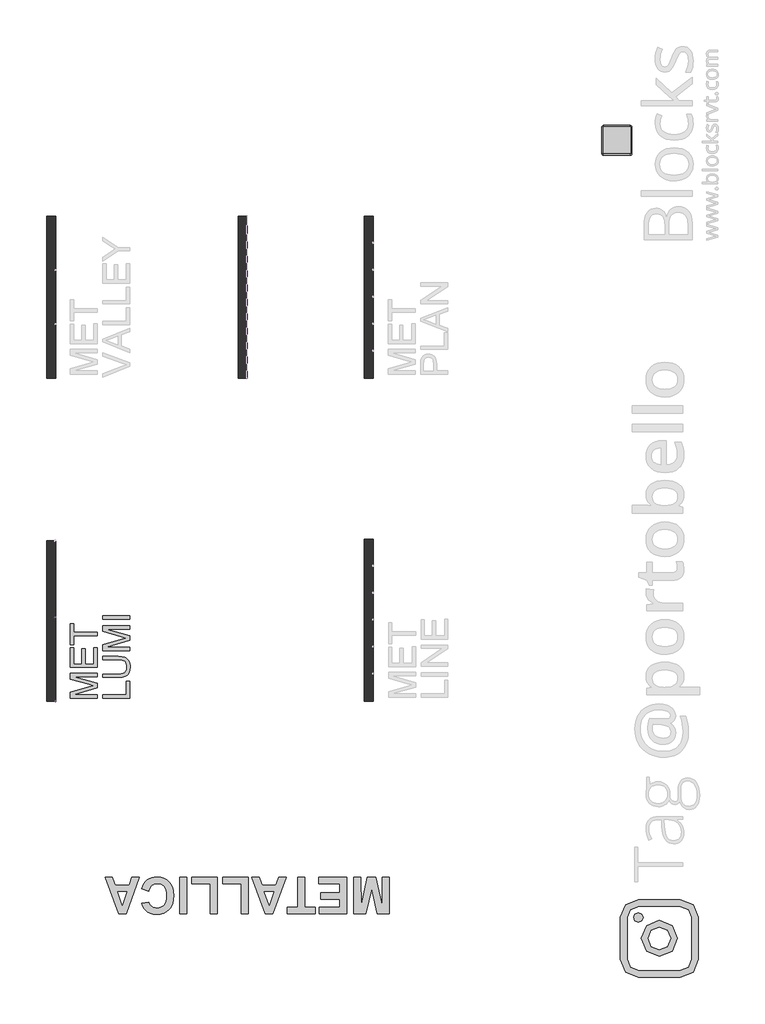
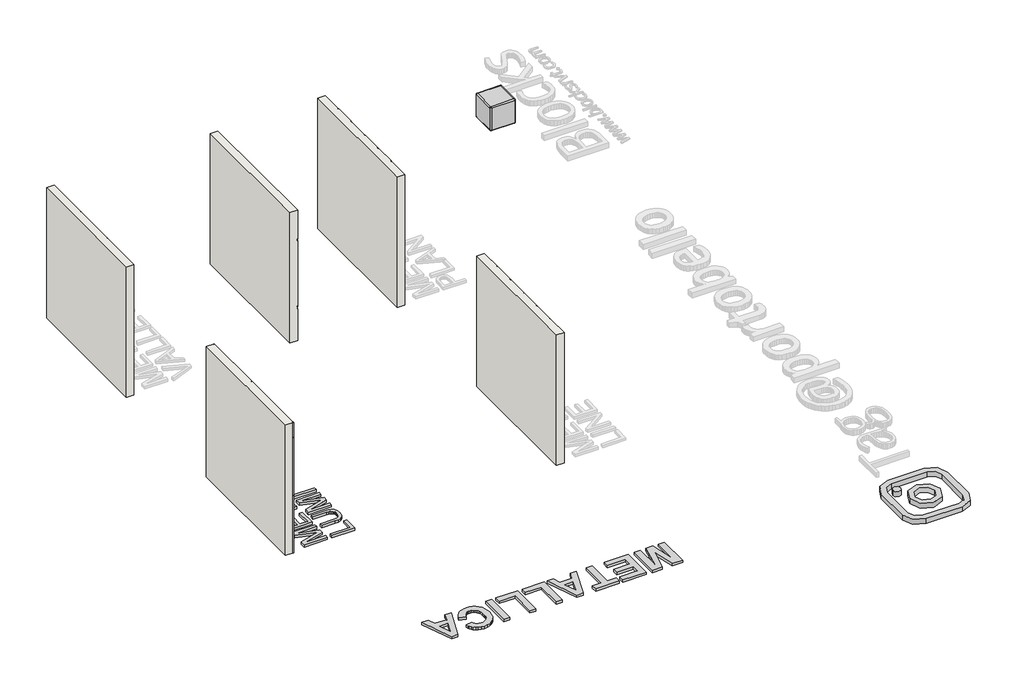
# One storey, part 1 of 4: 9 proxies, 5 walls, 1 furniture element.
"""IFC4 building model written with IfcOpenShell, lengths in millimetres."""

from ifc_helpers import new_model, si_unit, frame, origin, origin_with_axes, place, context, project, spatial, polyline, outline, extrude, faceted_brep, transform, mapped, element, save
from components import generic_models_0d7baa48, generic_models_3e540e93, generic_models_d67f6705, generic_models_3d10f0a6, generic_models_25f4ca0b, branco_22256ad2

model = new_model("IFC4")

# Units and contexts
model_context = context("Model", 3, world=origin())
ifc_project = project(units=[si_unit("LENGTHUNIT", "METRE", prefix="MILLI")], contexts=[model_context])

# Site, building, storey
site = spatial("IfcSite", under=ifc_project)
building = spatial("IfcBuilding", under=site)
storey = spatial("IfcBuildingStorey", under=building, Name="PORTOBELLO - SHOWROOM", Elevation=0.0)

# Proxies
placement = place(None, origin())
generic_models_shape = generic_models_0d7baa48(model_context)
element("IfcBuildingElementProxy", 1, Name="PORTOBELLO - METALLICA MET LUMI : LUMI CORNER 1,3X120", ObjectType="PORTOBELLO - METALLICA MET LUMI : LUMI CORNER 1,3X120", at=placement, inside=storey, context=model_context, shape_type="MappedRepresentation", body=[
    mapped(generic_models_shape, transform((52626.6154392, 18431.4365605, 600.0), x_axis=(0.0, 1.0, 0.0), y_axis=(0.0, 0.0, 1.0), z_axis=(1.0, 0.0, 0.0))),
])
element("IfcBuildingElementProxy", 2, Name="PORTOBELLO - METALLICA MET LUMI : LUMI CORNER 1,3X120", ObjectType="PORTOBELLO - METALLICA MET LUMI : LUMI CORNER 1,3X120", at=placement, inside=storey, context=model_context, shape_type="MappedRepresentation", body=[
    mapped(generic_models_shape, transform((52626.6154392, 18431.4365605, 1800.0), x_axis=(0.0, 1.0, 0.0), y_axis=(0.0, 0.0, 1.0), z_axis=(1.0, 0.0, 0.0))),
])
generic_models_2_shape = generic_models_3e540e93(model_context)
element("IfcBuildingElementProxy", 3, Name="PORTOBELLO - METALLICA MET LUMI : LUMI CORNER 1,3X120", ObjectType="PORTOBELLO - METALLICA MET LUMI : LUMI CORNER 1,3X120", at=placement, inside=storey, context=model_context, shape_type="MappedRepresentation", body=[
    mapped(generic_models_2_shape, transform((52626.6154392, 18431.4365605, 3000.0), x_axis=(0.0, 1.0, 0.0), y_axis=(0.0, 0.0, 1.0), z_axis=(1.0, 0.0, 0.0))),
])
generic_models_3_shape = generic_models_d67f6705(model_context)
element("IfcBuildingElementProxy", 4, Name="Blks_Instagram1 : Único 2", ObjectType="Blks_Instagram1 : Único 2", at=placement, inside=storey, context=model_context, shape_type="MappedRepresentation", body=[
    mapped(generic_models_3_shape, transform((62696.922627, 14478.0190046, 0.0), x_axis=(-1.0, 0.0, 0.0), y_axis=(0.0, -1.0, 0.0), z_axis=(0.0, 0.0, 1.0))),
])
generic_models_4_shape = generic_models_3d10f0a6(model_context)
element("IfcBuildingElementProxy", 5, Name="PORTOBELLO - METALLICA MET LUMI 1,6X120 : LUMI 1,6X120", ObjectType="PORTOBELLO - METALLICA MET LUMI 1,6X120 : LUMI 1,6X120", at=placement, inside=storey, context=model_context, shape_type="MappedRepresentation", body=[
    mapped(generic_models_4_shape, transform((52625.3154392, 19832.9733076, 581.0303366), x_axis=(0.0, 1.0, 0.0), y_axis=(0.0, 0.0, 1.0), z_axis=(1.0, 0.0, 0.0))),
])
element("IfcBuildingElementProxy", 6, Name="PORTOBELLO - METALLICA MET LUMI 1,6X120 : LUMI 1,6X120", ObjectType="PORTOBELLO - METALLICA MET LUMI 1,6X120 : LUMI 1,6X120", at=placement, inside=storey, context=model_context, shape_type="MappedRepresentation", body=[
    mapped(generic_models_4_shape, transform((52625.3154392, 19832.9733076, 1781.0303366), x_axis=(0.0, 1.0, 0.0), y_axis=(0.0, 0.0, 1.0), z_axis=(1.0, 0.0, 0.0))),
])
generic_models_5_shape = generic_models_25f4ca0b(model_context)
element("IfcBuildingElementProxy", 7, Name="PORTOBELLO - METALLICA MET LUMI 1,6X120 : LUMI 1,6X120", ObjectType="PORTOBELLO - METALLICA MET LUMI 1,6X120 : LUMI 1,6X120", at=placement, inside=storey, context=model_context, shape_type="MappedRepresentation", body=[
    mapped(generic_models_5_shape, transform((52625.3154392, 19832.9733076, 2981.0303366), x_axis=(0.0, 1.0, 0.0), y_axis=(0.0, 0.0, 1.0), z_axis=(1.0, 0.0, 0.0))),
])
element("IfcBuildingElementProxy", 8, Name="450mm Arial", ObjectType="450mm Arial", at=placement, inside=storey, context=model_context, shape_type="SweptSolid", body=[
    extrude(outline(polyline([(53322.423094, 18486.6436163), (52872.7669512, 18486.6436163), (52872.7669512, 18583.3592076), (53189.6998819, 18675.3542876), (53255.8968189, 18693.9069946), (53184.2109153, 18713.9966123), (52872.7669512, 18804.4547817), (52872.7669512, 18901.170373), (53322.423094, 18901.170373), (53322.423094, 18844.9633551), (52928.973969, 18844.9633551), (53322.423094, 18732.0004228), (53322.423094, 18655.8135665), (52928.973969, 18542.8506342), (53322.423094, 18542.8506342), (53322.423094, 18486.6436163)])), origin_with_axes(), (0.0, 0.0, 1.0), 50.0),
    extrude(outline(polyline([(53322.423094, 18999.5326542), (52872.7669512, 18999.5326542), (52872.7669512, 19322.7230069), (52928.973969, 19322.7230069), (52928.973969, 19055.7396721), (53062.4656364, 19055.7396721), (53062.4656364, 19308.6712524), (53118.6726543, 19308.6712524), (53118.6726543, 19055.7396721), (53266.2160761, 19055.7396721), (53266.2160761, 19329.7488841), (53322.423094, 19329.7488841), (53322.423094, 18999.5326542)])), origin_with_axes(), (0.0, 0.0, 1.0), 50.0),
    extrude(outline(polyline([(53322.423094, 19526.4734466), (52928.973969, 19526.4734466), (52928.973969, 19378.9300247), (52872.7669512, 19378.9300247), (52872.7669512, 19730.2238863), (52928.973969, 19730.2238863), (52928.973969, 19582.6804644), (53322.423094, 19582.6804644), (53322.423094, 19526.4734466)])), origin_with_axes(), (0.0, 0.0, 1.0), 50.0),
    extrude(outline(polyline([(53862.8551772, 18486.6436163), (53413.1990343, 18486.6436163), (53413.1990343, 18542.8506342), (53806.6481593, 18542.8506342), (53806.6481593, 18767.6787056), (53862.8551772, 18767.6787056), (53862.8551772, 18486.6436163)])), origin_with_axes(), (0.0, 0.0, 1.0), 50.0),
    extrude(outline(polyline([(53413.1990343, 19125.9984444), (53413.1990343, 19182.2054622), (53672.6075952, 19182.2054622), (53733.3567329, 19178.3906305), (53780.1364507, 19166.9461351), (53799.1076915, 19157.7864221), (53816.226406, 19145.5666103), (53831.4925943, 19130.2866995), (53844.9062564, 19111.9466899), (53855.8327305, 19090.5259978), (53863.6373549, 19066.0040396), (53868.3201295, 19038.3808152), (53869.8810544, 19007.6563248), (53864.4469775, 18950.5847947), (53857.6543813, 18926.3407154), (53848.1447467, 18904.9577599), (53836.0587284, 18886.4324977), (53821.5369812, 18870.7614981), (53804.579505, 18857.9447611), (53785.1862999, 18847.9822867), (53736.4305542, 18835.1792722), (53672.6075952, 18830.9116007), (53413.1990343, 18830.9116007), (53413.1990343, 18887.1186185), (53670.6315673, 18887.1186185), (53721.1437823, 18889.8905466), (53756.3143357, 18898.206331), (53780.6716249, 18913.2735443), (53798.7440474, 18936.2997591), (53809.9415393, 18966.3244064), (53813.6740365, 19002.3869168), (53811.8283715, 19033.365272), (53806.2913765, 19059.5545038), (53797.0630514, 19080.9546123), (53784.1433963, 19097.5655975), (53765.9749169, 19110.004968), (53741.0001189, 19118.8902326), (53709.2190024, 19124.2213914), (53670.6315673, 19125.9984444), (53413.1990343, 19125.9984444)])), origin_with_axes(), (0.0, 0.0, 1.0), 50.0),
    extrude(outline(polyline([(53862.8551772, 19280.5677435), (53413.1990343, 19280.5677435), (53413.1990343, 19377.2833347), (53730.1319651, 19469.2784147), (53796.3289021, 19487.8311218), (53724.6429985, 19507.9207395), (53413.1990343, 19598.3789089), (53413.1990343, 19695.0945001), (53862.8551772, 19695.0945001), (53862.8551772, 19638.8874823), (53469.4060522, 19638.8874823), (53862.8551772, 19525.9245499), (53862.8551772, 19449.7376937), (53469.4060522, 19336.7747613), (53862.8551772, 19336.7747613), (53862.8551772, 19280.5677435)])), origin_with_axes(), (0.0, 0.0, 1.0), 50.0),
    extrude(outline(polyline([(53862.8551772, 19800.4826586), (53413.1990343, 19800.4826586), (53413.1990343, 19856.6896765), (53862.8551772, 19856.6896765), (53862.8551772, 19800.4826586)])), origin_with_axes(), (0.0, 0.0, 1.0), 50.0),
])
element("IfcBuildingElementProxy", 9, Name="600mm Arial", ObjectType="600mm Arial", at=placement, inside=storey, context=model_context, shape_type="SweptSolid", body=[
    extrude(outline(polyline([(58192.7189025, 15501.3384056), (58192.7189025, 14889.1827656), (57992.9181033, 14889.1827656), (57896.3578387, 15306.6996331), (57799.797574, 14889.1827656), (57599.9967749, 14889.1827656), (57599.9967749, 15501.3384056), (57716.5978491, 15501.3384056), (57721.4562272, 15019.4480283), (57828.0368967, 15501.3384056), (57964.5269563, 15501.3384056), (58071.2594501, 15019.4480283), (58076.1178282, 15501.3384056), (58192.7189025, 15501.3384056)])), origin_with_axes(), (0.0, 0.0, 1.0), 50.0),
    extrude(outline(polyline([(57483.3957006, 15501.3384056), (57483.3957006, 14889.1827656), (57026.7081597, 14889.1827656), (57026.7081597, 14996.0670837), (57366.7946263, 14996.0670837), (57366.7946263, 15132.1016703), (57046.141672, 15132.1016703), (57046.141672, 15238.9859884), (57366.7946263, 15238.9859884), (57366.7946263, 15394.4540875), (57016.9914035, 15394.4540875), (57016.9914035, 15501.3384056), (57483.3957006, 15501.3384056)])), origin_with_axes(), (0.0, 0.0, 1.0), 50.0),
    extrude(outline(polyline([(56783.7892549, 15501.3384056), (56783.7892549, 14996.0670837), (56958.6908663, 14996.0670837), (56958.6908663, 14889.1827656), (56492.2865692, 14889.1827656), (56492.2865692, 14996.0670837), (56667.1881806, 14996.0670837), (56667.1881806, 15501.3384056), (56783.7892549, 15501.3384056)])), origin_with_axes(), (0.0, 0.0, 1.0), 50.0),
    extrude(outline(polyline([(55899.5644416, 15501.3384056), (56022.0866642, 15501.3384056), (56070.0631479, 15365.3038189), (56301.2915803, 15365.3038189), (56348.6607668, 15501.3384056), (56472.8530568, 15501.3384056), (56249.3676644, 14889.1827656), (56125.1753744, 14889.1827656), (55899.5644416, 15501.3384056)]), holes=[polyline([(56107.4119295, 15258.4195008), (56186.2087492, 15034.9341084), (56263.9427987, 15258.4195008), (56107.4119295, 15258.4195008)])]), origin_with_axes(), (0.0, 0.0, 1.0), 50.0),
    extrude(outline(polyline([(55841.2639045, 15501.3384056), (55841.2639045, 14889.1827656), (55724.6628302, 14889.1827656), (55724.6628302, 15394.4540875), (55413.7266321, 15394.4540875), (55413.7266321, 15501.3384056), (55841.2639045, 15501.3384056)])), origin_with_axes(), (0.0, 0.0, 1.0), 50.0),
    extrude(outline(polyline([(55326.2758264, 15501.3384056), (55326.2758264, 14889.1827656), (55209.6747521, 14889.1827656), (55209.6747521, 15394.4540875), (54898.738554, 15394.4540875), (54898.738554, 15501.3384056), (55326.2758264, 15501.3384056)])), origin_with_axes(), (0.0, 0.0, 1.0), 50.0),
    extrude(outline(polyline([(54811.2877483, 15501.3384056), (54811.2877483, 14889.1827656), (54694.686674, 14889.1827656), (54694.686674, 15501.3384056), (54811.2877483, 15501.3384056)])), origin_with_axes(), (0.0, 0.0, 1.0), 50.0),
    extrude(outline(polyline([(54179.698596, 15268.136257), (54063.0975217, 15307.0032818), (54079.2003881, 15353.1056841), (54099.8769621, 15392.8789102), (54125.1272436, 15426.3229602), (54154.9512325, 15453.437834), (54189.2255718, 15474.3943341), (54227.826904, 15489.3632627), (54270.7552292, 15498.3446199), (54318.0105474, 15501.3384056), (54376.3964857, 15496.2238239), (54429.3357267, 15480.8800791), (54476.8282704, 15455.3071709), (54518.8741167, 15419.5050995), (54553.2813022, 15374.8307947), (54577.8578633, 15322.6411863), (54592.6037999, 15262.9362742), (54597.5191121, 15195.7160585), (54592.5610993, 15124.8330812), (54577.6870609, 15062.3383974), (54552.8969969, 15008.232007), (54536.7834553, 14984.3244218), (54518.1909073, 14962.51391), (54475.4001729, 14926.1804535), (54426.3561745, 14900.2279845), (54371.0589121, 14884.6565032), (54309.5083857, 14879.4660094), (54255.6866659, 14883.7455573), (54207.1787971, 14896.584201), (54163.9847793, 14917.9819404), (54126.1046126, 14947.9387757), (54106.3959186, 14970.3423512), (54089.3251722, 14997.16781), (54074.8923732, 15028.4151519), (54063.0975217, 15064.084377), (54179.698596, 15083.5178894), (54187.0478417, 15062.1628505), (54197.5569311, 15043.1895556), (54211.225864, 15026.5980046), (54228.0546404, 15012.3881976), (54247.4549413, 15000.9966294), (54268.8384472, 14992.859795), (54292.2051582, 14987.9776944), (54317.5550744, 14986.3503275), (54352.2042299, 14989.3061571), (54383.4278493, 14998.1736461), (54411.2259325, 15012.9527943), (54435.5984797, 15033.6436018), (54455.4257864, 15060.948256), (54469.5881483, 15095.5689444), (54478.0855655, 15137.5056671), (54480.9180379, 15186.7584239), (54478.1709666, 15238.8910982), (54469.929753, 15282.9391278), (54456.194397, 15318.9025125), (54436.9648985, 15346.7812524), (54413.3324949, 15367.6381178), (54386.3884234, 15382.5358787), (54356.1326841, 15391.4745353), (54322.5652768, 15394.4540875), (54297.5759434, 15392.551539), (54274.3800347, 15386.8438937), (54252.9775507, 15377.3311514), (54233.3684915, 15364.0133122), (54215.9798629, 15346.6057056), (54201.2386707, 15324.8236608), (54189.1449151, 15298.6671779), (54179.698596, 15268.136257)])), origin_with_axes(), (0.0, 0.0, 1.0), 50.0),
    extrude(outline(polyline([(53450.9418817, 15501.3384056), (53573.4641043, 15501.3384056), (53621.440588, 15365.3038189), (53852.6690204, 15365.3038189), (53900.0382069, 15501.3384056), (54024.2304969, 15501.3384056), (53800.7451046, 14889.1827656), (53676.5528145, 14889.1827656), (53450.9418817, 15501.3384056)]), holes=[polyline([(53658.7893696, 15258.4195008), (53737.5861893, 15034.9341084), (53815.3202388, 15258.4195008), (53658.7893696, 15258.4195008)])]), origin_with_axes(), (0.0, 0.0, 1.0), 50.0),
])

# Furniture
branco_shape = branco_22256ad2(model_context)
element("IfcFurniture", 10, ObjectType="Blks_Mob_Blocks Revit_Cubo : Branco", at=placement, inside=storey, context=model_context, shape_type="MappedRepresentation", body=[
    mapped(branco_shape, transform((61989.1421837, 27788.6066102, 0.0), x_axis=(1.0, 0.0, 0.0), y_axis=(0.0, 1.0, 0.0), z_axis=(0.0, 0.0, 1.0))),
])

# Walls
element("IfcWall", 11, ObjectType="PORTOBELLO - METALLICA - MET", at=placement, inside=storey, context=model_context, shape_type="SweptSolid", body=[
    extrude(outline(polyline([(57775.3154392, 18437.9733076), (57775.3154392, 21137.9733076), (57925.3154392, 21137.9733076), (57925.3154392, 20689.4733076), (57919.5139286, 20689.4733076), (57919.5139286, 20712.9733076), (57918.0139286, 20712.9733076), (57918.0139286, 20687.9733076), (57925.3154392, 20687.9733076), (57925.3154392, 20239.4733076), (57919.5139286, 20239.4733076), (57919.5139286, 20262.9733076), (57918.0139286, 20262.9733076), (57918.0139286, 20237.9733076), (57925.3154392, 20237.9733076), (57925.3154392, 19789.4733076), (57919.5139286, 19789.4733076), (57919.5139286, 19812.9733076), (57918.0139286, 19812.9733076), (57918.0139286, 19787.9733076), (57925.3154392, 19787.9733076), (57925.3154392, 19339.4733076), (57919.5139286, 19339.4733076), (57919.5139286, 19362.9733076), (57918.0139286, 19362.9733076), (57918.0139286, 19337.9733076), (57925.3154392, 19337.9733076), (57925.3154392, 18889.4733076), (57919.5139286, 18889.4733076), (57919.5139286, 18912.9733076), (57918.0139286, 18912.9733076), (57918.0139286, 18887.9733076), (57925.3154392, 18887.9733076), (57925.3154392, 18437.9733076), (57775.3154392, 18437.9733076)])), origin_with_axes(), (0.0, 0.0, 1.0), 2700.0),
])
element("IfcWall", 12, ObjectType="PORTOBELLO - METALLICA - MET", at=placement, inside=storey, context=model_context, shape_type="SweptSolid", body=[
    extrude(outline(polyline([(52475.3154392, 18437.9733076), (52475.3154392, 21112.9733076), (52625.3154392, 21112.9733076), (52625.3154392, 19840.9733076), (52614.3534074, 19840.9733076), (52614.3534074, 19839.7644003), (52615.2448383, 19839.7644003), (52615.2448383, 19826.1822148), (52614.3534074, 19826.1822148), (52614.3534074, 19824.9733076), (52625.3154392, 19824.9733076), (52625.3154392, 18437.9733076), (52475.3154392, 18437.9733076)])), origin_with_axes(), (0.0, 0.0, 1.0), 2700.0),
    extrude(outline(polyline([(52625.3154392, 19839.7644003), (52625.3154392, 19826.1822148), (52616.0737736, 19826.1822148), (52616.0737736, 19839.7644003), (52625.3154392, 19839.7644003)])), origin_with_axes(), (0.0, 0.0, 1.0), 2700.0),
])
element("IfcWall", 13, ObjectType="PORTOBELLO - METALLICA - MET", at=placement, inside=storey, context=model_context, shape_type="SweptSolid", body=[
    extrude(outline(polyline([(57775.3154392, 23824.9733076), (57775.3154392, 26524.9733076), (57925.3154392, 26524.9733076), (57925.3154392, 26079.9733076), (57917.3154392, 26079.9733076), (57917.3154392, 26098.8839187), (57916.3154392, 26098.8839187), (57916.3154392, 26078.9733076), (57925.3154392, 26078.9733076), (57925.3154392, 26070.9733076), (57918.7943809, 26070.9733076), (57917.5233757, 26072.2443128), (57916.3154392, 26072.2443128), (57916.3154392, 26069.9733076), (57925.3154392, 26069.9733076), (57925.3154392, 25629.9733076), (57917.3154392, 25629.9733076), (57917.3154392, 25648.8839187), (57916.3154392, 25648.8839187), (57916.3154392, 25628.9733076), (57925.3154392, 25628.9733076), (57925.3154392, 25620.9733076), (57918.7943809, 25620.9733076), (57917.5233757, 25622.2443128), (57916.3154392, 25622.2443128), (57916.3154392, 25619.9733076), (57925.3154392, 25619.9733076), (57925.3154392, 25179.9733076), (57917.3154392, 25179.9733076), (57917.3154392, 25198.8839187), (57916.3154392, 25198.8839187), (57916.3154392, 25178.9733076), (57925.3154392, 25178.9733076), (57925.3154392, 25170.9733076), (57918.7943809, 25170.9733076), (57917.5233757, 25172.2443128), (57916.3154392, 25172.2443128), (57916.3154392, 25169.9733076), (57925.3154392, 25169.9733076), (57925.3154392, 24729.9733076), (57917.3154392, 24729.9733076), (57917.3154392, 24748.8839187), (57916.3154392, 24748.8839187), (57916.3154392, 24728.9733076), (57925.3154392, 24728.9733076), (57925.3154392, 24720.9733076), (57918.7943809, 24720.9733076), (57917.5233757, 24722.2443128), (57916.3154392, 24722.2443128), (57916.3154392, 24719.9733076), (57925.3154392, 24719.9733076), (57925.3154392, 24279.9733076), (57917.3154392, 24279.9733076), (57917.3154392, 24298.8839187), (57916.3154392, 24298.8839187), (57916.3154392, 24278.9733076), (57925.3154392, 24278.9733076), (57925.3154392, 24270.9733076), (57918.7943809, 24270.9733076), (57917.5233757, 24272.2443128), (57916.3154392, 24272.2443128), (57916.3154392, 24269.9733076), (57925.3154392, 24269.9733076), (57925.3154392, 23824.9733076), (57775.3154392, 23824.9733076)])), origin_with_axes(), (0.0, 0.0, 1.0), 2700.0),
])
element("IfcWall", 14, ObjectType="PORTOBELLO - METALLICA - MET", at=placement, inside=storey, context=model_context, shape_type="Brep", body=[
    faceted_brep([(52625.3154392, 26524.9733076, 0.0), (52625.3154392, 26524.9733076, 2700.0), (52625.3154392, 23824.9733076, 2700.0), (52625.3154392, 23824.9733076, 0.0), (52625.3154392, 24718.9733076, 0.0), (52625.3154392, 24718.9733076, 2400.0), (52625.3154392, 24719.9733076, 2400.0), (52625.3154392, 24719.9733076, 0.0), (52625.3154392, 24729.9733076, 0.0), (52625.3154392, 24729.9733076, 2400.0), (52625.3154392, 24730.9733076, 2400.0), (52625.3154392, 24730.9733076, 0.0), (52625.3154392, 25618.9733076, 0.0), (52625.3154392, 25618.9733076, 2400.0), (52625.3154392, 25619.9733076, 2400.0), (52625.3154392, 25619.9733076, 0.0), (52625.3154392, 25629.9733076, 0.0), (52625.3154392, 25629.9733076, 2400.0), (52625.3154392, 25630.9733076, 2400.0), (52625.3154392, 25630.9733076, 0.0), (52475.3154392, 26524.9733076, 0.0), (52475.3154392, 23824.9733076, 0.0), (52475.3154392, 23824.9733076, 2700.0), (52475.3154392, 26524.9733076, 2700.0), (52616.3154392, 25630.9733076, 0.0), (52616.3154392, 25629.9733076, 0.0), (52616.3154392, 25619.9733076, 0.0), (52616.3154392, 25618.9733076, 0.0), (52616.3154392, 24730.9733076, 0.0), (52616.3154392, 24729.9733076, 0.0), (52616.3154392, 24719.9733076, 0.0), (52616.3154392, 24718.9733076, 0.0), (52616.3154392, 25618.9733076, 2400.0), (52616.3154392, 25619.9733076, 2400.0), (52616.3154392, 25629.9733076, 2400.0), (52616.3154392, 25630.9733076, 2400.0), (52616.3154392, 24718.9733076, 2400.0), (52616.3154392, 24719.9733076, 2400.0), (52616.3154392, 24729.9733076, 2400.0), (52616.3154392, 24730.9733076, 2400.0)], [[[0, 1, 2, 3, 4, 5, 6, 7, 8, 9, 10, 11, 12, 13, 14, 15, 16, 17, 18, 19]], [[20, 21, 22, 23]], [[21, 20, 0, 19, 24, 25, 16, 15, 26, 27, 12, 11, 28, 29, 8, 7, 30, 31, 4, 3]], [[1, 0, 20, 23]], [[2, 1, 23, 22]], [[3, 2, 22, 21]], [[32, 33, 14, 13]], [[17, 34, 35, 18]], [[18, 35, 24, 19]], [[35, 34, 25, 24]], [[34, 17, 16, 25]], [[14, 33, 26, 15]], [[33, 32, 27, 26]], [[32, 13, 12, 27]], [[36, 37, 6, 5]], [[9, 38, 39, 10]], [[28, 11, 10, 39]], [[28, 39, 38, 29]], [[29, 38, 9, 8]], [[6, 37, 30, 7]], [[30, 37, 36, 31]], [[31, 36, 5, 4]]]),
])
element("IfcWall", 15, ObjectType="PORTOBELLO - METALLICA - MET", at=placement, inside=storey, context=model_context, shape_type="SweptSolid", body=[
    extrude(outline(polyline([(2700.0, 55675.3154392), (0.0, 55675.3154392), (0.0, 55825.3154392), (667.7289948, 55825.3154392), (667.7289948, 55816.3154392), (670.0, 55816.3154392), (670.0, 55817.5233757), (668.7289948, 55818.7943809), (668.7289948, 55825.3154392), (696.7289948, 55825.3154392), (696.7289948, 55816.3154392), (716.6396059, 55816.3154392), (716.6396059, 55817.3154392), (697.7289948, 55817.3154392), (697.7289948, 55825.3154392), (2077.7289948, 55825.3154392), (2077.7289948, 55816.3154392), (2080.0, 55816.3154392), (2080.0, 55817.5233757), (2078.7289948, 55818.7943809), (2078.7289948, 55825.3154392), (2086.7289948, 55825.3154392), (2086.7289948, 55816.3154392), (2106.6396059, 55816.3154392), (2106.6396059, 55817.3154392), (2087.7289948, 55817.3154392), (2087.7289948, 55825.3154392), (2700.0, 55825.3154392), (2700.0, 55675.3154392)])), frame((0.0, 23824.9733076, 0.0), z_axis=(0.0, 1.0, 0.0), x_axis=(0.0, 0.0, 1.0)), (0.0, 0.0, 1.0), 2700.0),
])

save(model, "model.ifc")
